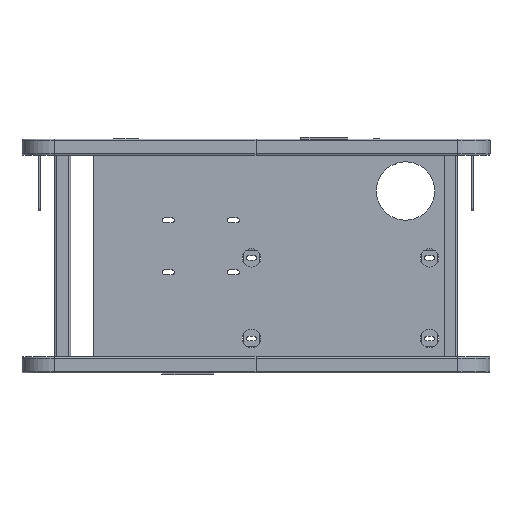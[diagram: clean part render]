
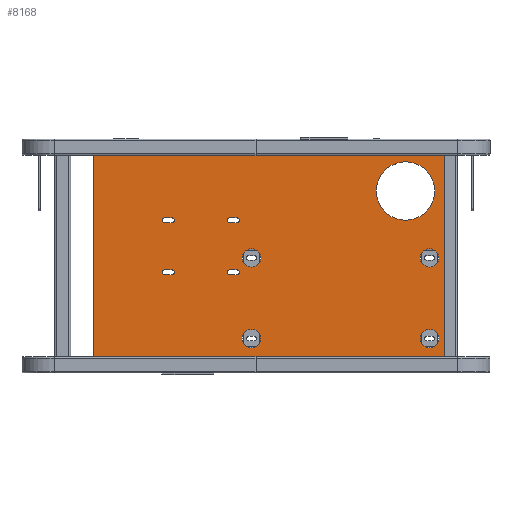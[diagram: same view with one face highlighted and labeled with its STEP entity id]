
A CAD part, front view. The second image highlights one B-rep face of the part: STEP entity #8168.
In plain terms, the highlighted planar face has unit normal (0, -1, 0) as drawn and (0, 0, 1) by its records, which use the part's own axes.
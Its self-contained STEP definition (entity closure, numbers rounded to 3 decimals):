
#454=FACE_BOUND('',#1527,.T.);
#455=FACE_BOUND('',#1528,.T.);
#456=FACE_BOUND('',#1529,.T.);
#457=FACE_BOUND('',#1530,.T.);
#458=FACE_BOUND('',#1531,.T.);
#459=FACE_BOUND('',#1532,.T.);
#460=FACE_BOUND('',#1533,.T.);
#461=FACE_BOUND('',#1534,.T.);
#462=FACE_BOUND('',#1535,.T.);
#512=CIRCLE('',#8881,14.);
#513=CIRCLE('',#8883,14.);
#514=CIRCLE('',#8885,14.);
#515=CIRCLE('',#8887,14.);
#516=CIRCLE('',#8889,45.);
#517=CIRCLE('',#8891,3.5);
#518=CIRCLE('',#8894,3.5);
#519=CIRCLE('',#8897,3.5);
#520=CIRCLE('',#8900,3.5);
#521=CIRCLE('',#8903,3.5);
#522=CIRCLE('',#8906,3.5);
#523=CIRCLE('',#8909,3.5);
#524=CIRCLE('',#8912,3.5);
#1023=FACE_OUTER_BOUND('',#1526,.T.);
#1526=EDGE_LOOP('',(#5602,#5603,#5604,#5605));
#1527=EDGE_LOOP('',(#5606));
#1528=EDGE_LOOP('',(#5607));
#1529=EDGE_LOOP('',(#5608));
#1530=EDGE_LOOP('',(#5609));
#1531=EDGE_LOOP('',(#5610));
#1532=EDGE_LOOP('',(#5611,#5612,#5613,#5614));
#1533=EDGE_LOOP('',(#5615,#5616,#5617,#5618));
#1534=EDGE_LOOP('',(#5619,#5620,#5621,#5622));
#1535=EDGE_LOOP('',(#5623,#5624,#5625,#5626));
#2041=LINE('',#12671,#2769);
#2045=LINE('',#12678,#2773);
#2063=LINE('',#12753,#2791);
#2066=LINE('',#12760,#2794);
#2069=LINE('',#12769,#2797);
#2072=LINE('',#12776,#2800);
#2075=LINE('',#12785,#2803);
#2078=LINE('',#12792,#2806);
#2081=LINE('',#12801,#2809);
#2084=LINE('',#12808,#2812);
#2085=LINE('',#12811,#2813);
#2087=LINE('',#12814,#2815);
#2769=VECTOR('',#9894,10.);
#2773=VECTOR('',#9900,10.);
#2791=VECTOR('',#9972,10.);
#2794=VECTOR('',#9981,10.);
#2797=VECTOR('',#9990,10.);
#2800=VECTOR('',#9999,10.);
#2803=VECTOR('',#10008,10.);
#2806=VECTOR('',#10017,10.);
#2809=VECTOR('',#10026,10.);
#2812=VECTOR('',#10035,10.);
#2813=VECTOR('',#10038,10.);
#2815=VECTOR('',#10042,10.);
#3497=VERTEX_POINT('',#12668);
#3498=VERTEX_POINT('',#12670);
#3500=VERTEX_POINT('',#12676);
#3523=VERTEX_POINT('',#12726);
#3524=VERTEX_POINT('',#12730);
#3525=VERTEX_POINT('',#12734);
#3526=VERTEX_POINT('',#12738);
#3527=VERTEX_POINT('',#12742);
#3528=VERTEX_POINT('',#12746);
#3529=VERTEX_POINT('',#12748);
#3530=VERTEX_POINT('',#12752);
#3531=VERTEX_POINT('',#12756);
#3532=VERTEX_POINT('',#12762);
#3533=VERTEX_POINT('',#12764);
#3534=VERTEX_POINT('',#12768);
#3535=VERTEX_POINT('',#12772);
#3536=VERTEX_POINT('',#12778);
#3537=VERTEX_POINT('',#12780);
#3538=VERTEX_POINT('',#12784);
#3539=VERTEX_POINT('',#12788);
#3540=VERTEX_POINT('',#12794);
#3541=VERTEX_POINT('',#12796);
#3542=VERTEX_POINT('',#12800);
#3543=VERTEX_POINT('',#12804);
#3544=VERTEX_POINT('',#12810);
#4253=EDGE_CURVE('',#3498,#3497,#2041,.T.);
#4257=EDGE_CURVE('',#3500,#3497,#2045,.T.);
#4282=EDGE_CURVE('',#3523,#3523,#512,.T.);
#4284=EDGE_CURVE('',#3524,#3524,#513,.T.);
#4286=EDGE_CURVE('',#3525,#3525,#514,.T.);
#4288=EDGE_CURVE('',#3526,#3526,#515,.T.);
#4290=EDGE_CURVE('',#3527,#3527,#516,.T.);
#4292=EDGE_CURVE('',#3529,#3528,#517,.T.);
#4294=EDGE_CURVE('',#3530,#3529,#2063,.T.);
#4296=EDGE_CURVE('',#3531,#3530,#518,.T.);
#4298=EDGE_CURVE('',#3528,#3531,#2066,.T.);
#4300=EDGE_CURVE('',#3533,#3532,#519,.T.);
#4302=EDGE_CURVE('',#3534,#3533,#2069,.T.);
#4304=EDGE_CURVE('',#3535,#3534,#520,.T.);
#4306=EDGE_CURVE('',#3532,#3535,#2072,.T.);
#4308=EDGE_CURVE('',#3537,#3536,#521,.T.);
#4310=EDGE_CURVE('',#3538,#3537,#2075,.T.);
#4312=EDGE_CURVE('',#3539,#3538,#522,.T.);
#4314=EDGE_CURVE('',#3536,#3539,#2078,.T.);
#4316=EDGE_CURVE('',#3541,#3540,#523,.T.);
#4318=EDGE_CURVE('',#3542,#3541,#2081,.T.);
#4320=EDGE_CURVE('',#3543,#3542,#524,.T.);
#4322=EDGE_CURVE('',#3540,#3543,#2084,.T.);
#4323=EDGE_CURVE('',#3498,#3544,#2085,.T.);
#4325=EDGE_CURVE('',#3544,#3500,#2087,.T.);
#5602=ORIENTED_EDGE('',*,*,#4253,.T.);
#5603=ORIENTED_EDGE('',*,*,#4257,.F.);
#5604=ORIENTED_EDGE('',*,*,#4325,.F.);
#5605=ORIENTED_EDGE('',*,*,#4323,.F.);
#5606=ORIENTED_EDGE('',*,*,#4282,.T.);
#5607=ORIENTED_EDGE('',*,*,#4284,.T.);
#5608=ORIENTED_EDGE('',*,*,#4286,.T.);
#5609=ORIENTED_EDGE('',*,*,#4288,.T.);
#5610=ORIENTED_EDGE('',*,*,#4290,.T.);
#5611=ORIENTED_EDGE('',*,*,#4296,.T.);
#5612=ORIENTED_EDGE('',*,*,#4294,.T.);
#5613=ORIENTED_EDGE('',*,*,#4292,.T.);
#5614=ORIENTED_EDGE('',*,*,#4298,.T.);
#5615=ORIENTED_EDGE('',*,*,#4304,.T.);
#5616=ORIENTED_EDGE('',*,*,#4302,.T.);
#5617=ORIENTED_EDGE('',*,*,#4300,.T.);
#5618=ORIENTED_EDGE('',*,*,#4306,.T.);
#5619=ORIENTED_EDGE('',*,*,#4312,.T.);
#5620=ORIENTED_EDGE('',*,*,#4310,.T.);
#5621=ORIENTED_EDGE('',*,*,#4308,.T.);
#5622=ORIENTED_EDGE('',*,*,#4314,.T.);
#5623=ORIENTED_EDGE('',*,*,#4320,.T.);
#5624=ORIENTED_EDGE('',*,*,#4318,.T.);
#5625=ORIENTED_EDGE('',*,*,#4316,.T.);
#5626=ORIENTED_EDGE('',*,*,#4322,.T.);
#7942=PLANE('',#8916);
#8168=ADVANCED_FACE('',(#1023,#454,#455,#456,#457,#458,#459,#460,#461,#462),
#7942,.T.);
#8881=AXIS2_PLACEMENT_3D('',#12728,#9942,#9943);
#8883=AXIS2_PLACEMENT_3D('',#12732,#9947,#9948);
#8885=AXIS2_PLACEMENT_3D('',#12736,#9952,#9953);
#8887=AXIS2_PLACEMENT_3D('',#12740,#9957,#9958);
#8889=AXIS2_PLACEMENT_3D('',#12744,#9962,#9963);
#8891=AXIS2_PLACEMENT_3D('',#12749,#9967,#9968);
#8894=AXIS2_PLACEMENT_3D('',#12757,#9976,#9977);
#8897=AXIS2_PLACEMENT_3D('',#12765,#9985,#9986);
#8900=AXIS2_PLACEMENT_3D('',#12773,#9994,#9995);
#8903=AXIS2_PLACEMENT_3D('',#12781,#10003,#10004);
#8906=AXIS2_PLACEMENT_3D('',#12789,#10012,#10013);
#8909=AXIS2_PLACEMENT_3D('',#12797,#10021,#10022);
#8912=AXIS2_PLACEMENT_3D('',#12805,#10030,#10031);
#8916=AXIS2_PLACEMENT_3D('',#12815,#10043,#10044);
#9894=DIRECTION('',(0.,-1.,0.));
#9900=DIRECTION('',(-1.,0.,0.));
#9942=DIRECTION('center_axis',(0.,0.,-1.));
#9943=DIRECTION('ref_axis',(-1.,0.,0.));
#9947=DIRECTION('center_axis',(0.,0.,-1.));
#9948=DIRECTION('ref_axis',(-1.,0.,0.));
#9952=DIRECTION('center_axis',(0.,0.,-1.));
#9953=DIRECTION('ref_axis',(-1.,0.,0.));
#9957=DIRECTION('center_axis',(0.,0.,-1.));
#9958=DIRECTION('ref_axis',(-1.,0.,0.));
#9962=DIRECTION('center_axis',(0.,0.,-1.));
#9963=DIRECTION('ref_axis',(1.,0.,0.));
#9967=DIRECTION('center_axis',(0.,0.,-1.));
#9968=DIRECTION('ref_axis',(0.,-1.,0.));
#9972=DIRECTION('',(1.,0.,0.));
#9976=DIRECTION('center_axis',(0.,0.,-1.));
#9977=DIRECTION('ref_axis',(0.,1.,0.));
#9981=DIRECTION('',(-1.,0.,0.));
#9985=DIRECTION('center_axis',(0.,0.,-1.));
#9986=DIRECTION('ref_axis',(0.,-1.,0.));
#9990=DIRECTION('',(-1.,0.,0.));
#9994=DIRECTION('center_axis',(0.,0.,-1.));
#9995=DIRECTION('ref_axis',(0.,1.,0.));
#9999=DIRECTION('',(1.,0.,0.));
#10003=DIRECTION('center_axis',(0.,0.,-1.));
#10004=DIRECTION('ref_axis',(0.,-1.,0.));
#10008=DIRECTION('',(-1.,0.,0.));
#10012=DIRECTION('center_axis',(0.,0.,-1.));
#10013=DIRECTION('ref_axis',(0.,1.,0.));
#10017=DIRECTION('',(1.,0.,0.));
#10021=DIRECTION('center_axis',(0.,0.,-1.));
#10022=DIRECTION('ref_axis',(0.,-1.,0.));
#10026=DIRECTION('',(-1.,0.,0.));
#10030=DIRECTION('center_axis',(0.,0.,-1.));
#10031=DIRECTION('ref_axis',(0.,1.,0.));
#10035=DIRECTION('',(1.,0.,0.));
#10038=DIRECTION('',(1.,0.,0.));
#10042=DIRECTION('',(0.,-1.,0.));
#10043=DIRECTION('center_axis',(0.,0.,1.));
#10044=DIRECTION('ref_axis',(1.,0.,0.));
#12668=CARTESIAN_POINT('',(-250.,-180.,2.));
#12670=CARTESIAN_POINT('',(-250.,180.,2.));
#12671=CARTESIAN_POINT('',(-250.,90.,2.));
#12676=CARTESIAN_POINT('',(290.,-180.,2.));
#12678=CARTESIAN_POINT('',(-290.,-180.,2.));
#12726=CARTESIAN_POINT('',(7.,-127.,2.));
#12728=CARTESIAN_POINT('Origin',(-7.,-127.,2.));
#12730=CARTESIAN_POINT('',(281.,-127.,2.));
#12732=CARTESIAN_POINT('Origin',(267.,-127.,2.));
#12734=CARTESIAN_POINT('',(7.,-3.,2.));
#12736=CARTESIAN_POINT('Origin',(-7.,-3.,2.));
#12738=CARTESIAN_POINT('',(281.,-3.,2.));
#12740=CARTESIAN_POINT('Origin',(267.,-3.,2.));
#12742=CARTESIAN_POINT('',(185.,100.,2.));
#12744=CARTESIAN_POINT('Origin',(230.,100.,2.));
#12746=CARTESIAN_POINT('',(-129.,-28.5,2.));
#12748=CARTESIAN_POINT('',(-129.,-21.5,2.));
#12749=CARTESIAN_POINT('Origin',(-129.,-25.,2.));
#12752=CARTESIAN_POINT('',(-141.,-21.5,2.));
#12753=CARTESIAN_POINT('',(-70.5,-21.5,2.));
#12756=CARTESIAN_POINT('',(-141.,-28.5,2.));
#12757=CARTESIAN_POINT('Origin',(-141.,-25.,2.));
#12760=CARTESIAN_POINT('',(-64.5,-28.5,2.));
#12762=CARTESIAN_POINT('',(-141.,58.5,2.));
#12764=CARTESIAN_POINT('',(-141.,51.5,2.));
#12765=CARTESIAN_POINT('Origin',(-141.,55.,2.));
#12768=CARTESIAN_POINT('',(-129.,51.5,2.));
#12769=CARTESIAN_POINT('',(-64.5,51.5,2.));
#12772=CARTESIAN_POINT('',(-129.,58.5,2.));
#12773=CARTESIAN_POINT('Origin',(-129.,55.,2.));
#12776=CARTESIAN_POINT('',(-70.5,58.5,2.));
#12778=CARTESIAN_POINT('',(-41.,58.5,2.));
#12780=CARTESIAN_POINT('',(-41.,51.5,2.));
#12781=CARTESIAN_POINT('Origin',(-41.,55.,2.));
#12784=CARTESIAN_POINT('',(-29.,51.5,2.));
#12785=CARTESIAN_POINT('',(-14.5,51.5,2.));
#12788=CARTESIAN_POINT('',(-29.,58.5,2.));
#12789=CARTESIAN_POINT('Origin',(-29.,55.,2.));
#12792=CARTESIAN_POINT('',(-20.5,58.5,2.));
#12794=CARTESIAN_POINT('',(-41.,-21.5,2.));
#12796=CARTESIAN_POINT('',(-41.,-28.5,2.));
#12797=CARTESIAN_POINT('Origin',(-41.,-25.,2.));
#12800=CARTESIAN_POINT('',(-29.,-28.5,2.));
#12801=CARTESIAN_POINT('',(-14.5,-28.5,2.));
#12804=CARTESIAN_POINT('',(-29.,-21.5,2.));
#12805=CARTESIAN_POINT('Origin',(-29.,-25.,2.));
#12808=CARTESIAN_POINT('',(-20.5,-21.5,2.));
#12810=CARTESIAN_POINT('',(290.,180.,2.));
#12811=CARTESIAN_POINT('',(290.,180.,2.));
#12814=CARTESIAN_POINT('',(290.,-180.,2.));
#12815=CARTESIAN_POINT('Origin',(0.,0.,
2.));
